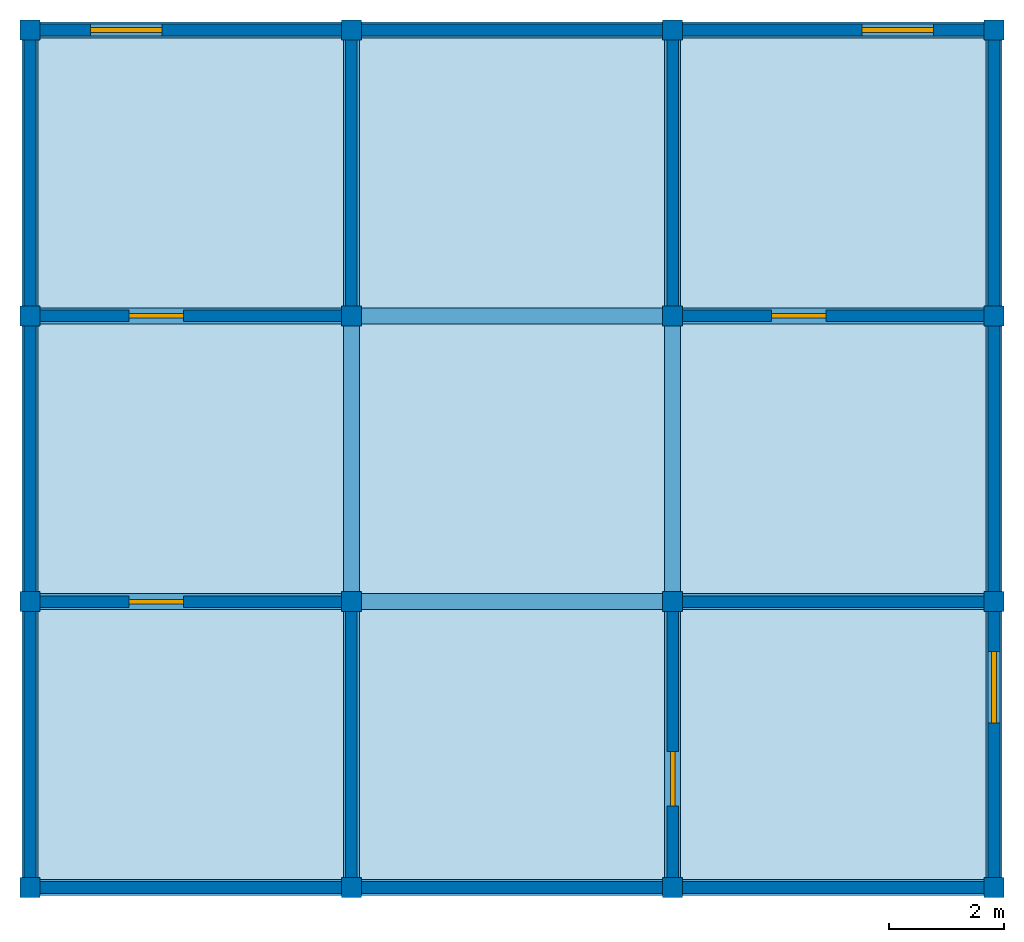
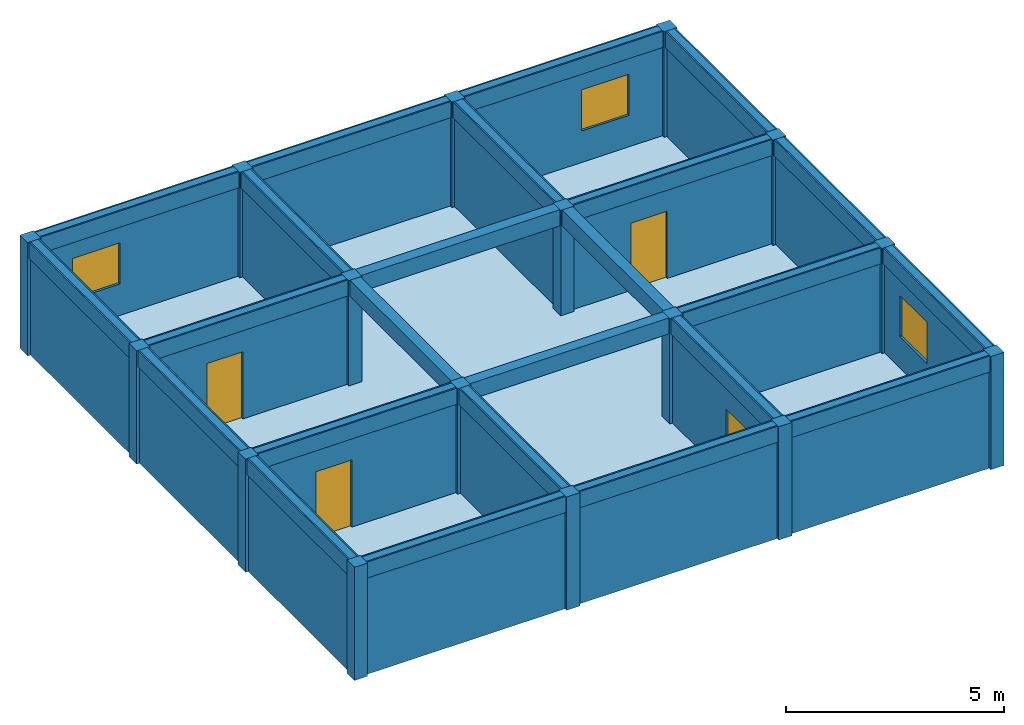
# One storey: 24 beams, 20 walls, 16 columns, 4 doors, 3 windows, 1 slab, 7 openings.
"""IFC4X3 building model written with IfcOpenShell, lengths in metres."""

from ifc_helpers import new_model, si_unit, frame, origin_with_axes, origin_2d, place, context, project, spatial, rectangle, extrude, material, element, fill, save


model = new_model("IFC4X3")

# Units and contexts
model_context = context("Model", 3, precision=1e-05, world=origin_with_axes())
ifc_project = project(units=[si_unit("LENGTHUNIT", "METRE"), si_unit("AREAUNIT", "SQUARE_METRE"), si_unit("VOLUMEUNIT", "CUBIC_METRE")], contexts=[model_context])

# Site, building, storey
site = spatial("IfcSite", under=ifc_project, Name="Puerto Montt Parcel", CompositionType="ELEMENT")
building = spatial("IfcBuilding", under=site, Name="Apex Hub", CompositionType="ELEMENT")
storey = spatial("IfcBuildingStorey", under=building, Name="Level 5", CompositionType="ELEMENT", Elevation=12.67)

# Columns
ifc_material_1 = material(Name="Concrete")
column_1_placement = place(None, frame((-8.415, -7.485, 12.669), z_axis=(0.0, 0.0, 1.0), x_axis=(1.0, 0.0, 0.0)))
element("IfcColumn", 1, at=column_1_placement, inside=storey, material=ifc_material_1, Name="Column 5.1", ObjectType="Structural Column", PredefinedType="COLUMN", context=model_context, shape_type="SweptSolid", body=[
    extrude(rectangle(XDim=0.35, YDim=0.35, at=origin_2d()), origin_with_axes(), (0.0, 0.0, 1.0), 3.167),
])
column_2_placement = place(None, frame((-8.415, -2.495, 12.669), z_axis=(0.0, 0.0, 1.0), x_axis=(1.0, 0.0, 0.0)))
element("IfcColumn", 2, at=column_2_placement, inside=storey, material=ifc_material_1, Name="Column 5.2", ObjectType="Facade Column", PredefinedType="COLUMN", context=model_context, shape_type="SweptSolid", body=[
    extrude(rectangle(XDim=0.35, YDim=0.35, at=origin_2d()), origin_with_axes(), (0.0, 0.0, 1.0), 3.167),
])
column_3_placement = place(None, frame((-8.415, 2.495, 12.669), z_axis=(0.0, 0.0, 1.0), x_axis=(1.0, 0.0, 0.0)))
element("IfcColumn", 3, at=column_3_placement, inside=storey, material=ifc_material_1, Name="Column 5.3", ObjectType="Core Column", PredefinedType="USERDEFINED", context=model_context, shape_type="SweptSolid", body=[
    extrude(rectangle(XDim=0.35, YDim=0.35, at=origin_2d()), origin_with_axes(), (0.0, 0.0, 1.0), 3.167),
])
for number, where, z_axis, x_axis, name in (
    (4, (-8.415, 7.485, 12.669), (0.0, 0.0, 1.0), (1.0, 0.0, 0.0), "Column 5.4"),
    (5, (-2.805, -7.485, 12.669), (0.0, 0.0, 1.0), (1.0, 0.0, 0.0), "Column 5.5"),
):
    element("IfcColumn", number, at=place(None, frame(where, z_axis=z_axis, x_axis=x_axis)), inside=storey, material=ifc_material_1, Name=name, ObjectType="Corner Column", PredefinedType="NOTDEFINED", context=model_context, shape_type="SweptSolid", body=[
        extrude(rectangle(XDim=0.35, YDim=0.35, at=origin_2d()), origin_with_axes(), (0.0, 0.0, 1.0), 3.167),
    ])
column_4_placement = place(None, frame((-2.805, -2.495, 12.669), z_axis=(0.0, 0.0, 1.0), x_axis=(1.0, 0.0, 0.0)))
element("IfcColumn", 6, at=column_4_placement, inside=storey, material=ifc_material_1, Name="Column 5.6", ObjectType="Core Column", PredefinedType="NOTDEFINED", context=model_context, shape_type="SweptSolid", body=[
    extrude(rectangle(XDim=0.35, YDim=0.35, at=origin_2d()), origin_with_axes(), (0.0, 0.0, 1.0), 3.167),
])
for number, where, z_axis, x_axis, name in (
    (7, (-2.805, 2.495, 12.669), (0.0, 0.0, 1.0), (1.0, 0.0, 0.0), "Column 5.7"),
    (8, (-2.805, 7.485, 12.669), (0.0, 0.0, 1.0), (1.0, 0.0, 0.0), "Column 5.8"),
):
    element("IfcColumn", number, at=place(None, frame(where, z_axis=z_axis, x_axis=x_axis)), inside=storey, material=ifc_material_1, Name=name, ObjectType="Core Column", PredefinedType="COLUMN", context=model_context, shape_type="SweptSolid", body=[
        extrude(rectangle(XDim=0.35, YDim=0.35, at=origin_2d()), origin_with_axes(), (0.0, 0.0, 1.0), 3.167),
    ])
column_5_placement = place(None, frame((2.805, -7.485, 12.669), z_axis=(0.0, 0.0, 1.0), x_axis=(1.0, 0.0, 0.0)))
element("IfcColumn", 9, at=column_5_placement, inside=storey, material=ifc_material_1, Name="Column 5.9", ObjectType="Structural Column", PredefinedType="PILASTER", context=model_context, shape_type="SweptSolid", body=[
    extrude(rectangle(XDim=0.35, YDim=0.35, at=origin_2d()), origin_with_axes(), (0.0, 0.0, 1.0), 3.167),
])
column_6_placement = place(None, frame((2.805, -2.495, 12.669), z_axis=(0.0, 0.0, 1.0), x_axis=(1.0, 0.0, 0.0)))
element("IfcColumn", 10, at=column_6_placement, inside=storey, material=ifc_material_1, Name="Column 5.10", ObjectType="Corner Column", PredefinedType="NOTDEFINED", context=model_context, shape_type="SweptSolid", body=[
    extrude(rectangle(XDim=0.35, YDim=0.35, at=origin_2d()), origin_with_axes(), (0.0, 0.0, 1.0), 3.167),
])
column_7_placement = place(None, frame((2.805, 2.495, 12.669), z_axis=(0.0, 0.0, 1.0), x_axis=(1.0, 0.0, 0.0)))
element("IfcColumn", 11, at=column_7_placement, inside=storey, material=ifc_material_1, Name="Column 5.11", ObjectType="Core Column", PredefinedType="COLUMN", context=model_context, shape_type="SweptSolid", body=[
    extrude(rectangle(XDim=0.35, YDim=0.35, at=origin_2d()), origin_with_axes(), (0.0, 0.0, 1.0), 3.167),
])
column_8_placement = place(None, frame((2.805, 7.485, 12.669), z_axis=(0.0, 0.0, 1.0), x_axis=(1.0, 0.0, 0.0)))
element("IfcColumn", 12, at=column_8_placement, inside=storey, material=ifc_material_1, Name="Column 5.12", ObjectType="Core Column", PredefinedType="PILASTER", context=model_context, shape_type="SweptSolid", body=[
    extrude(rectangle(XDim=0.35, YDim=0.35, at=origin_2d()), origin_with_axes(), (0.0, 0.0, 1.0), 3.167),
])
column_9_placement = place(None, frame((8.415, -7.485, 12.669), z_axis=(0.0, 0.0, 1.0), x_axis=(1.0, 0.0, 0.0)))
element("IfcColumn", 13, at=column_9_placement, inside=storey, material=ifc_material_1, Name="Column 5.13", ObjectType="Structural Column", PredefinedType="PILASTER", context=model_context, shape_type="SweptSolid", body=[
    extrude(rectangle(XDim=0.35, YDim=0.35, at=origin_2d()), origin_with_axes(), (0.0, 0.0, 1.0), 3.167),
])
for number, where, z_axis, x_axis, name in (
    (14, (8.415, -2.495, 12.669), (0.0, 0.0, 1.0), (1.0, 0.0, 0.0), "Column 5.14"),
    (15, (8.415, 2.495, 12.669), (0.0, 0.0, 1.0), (1.0, 0.0, 0.0), "Column 5.15"),
):
    element("IfcColumn", number, at=place(None, frame(where, z_axis=z_axis, x_axis=x_axis)), inside=storey, material=ifc_material_1, Name=name, ObjectType="Structural Column", PredefinedType="NOTDEFINED", context=model_context, shape_type="SweptSolid", body=[
        extrude(rectangle(XDim=0.35, YDim=0.35, at=origin_2d()), origin_with_axes(), (0.0, 0.0, 1.0), 3.167),
    ])
column_10_placement = place(None, frame((8.415, 7.485, 12.669), z_axis=(0.0, 0.0, 1.0), x_axis=(1.0, 0.0, 0.0)))
element("IfcColumn", 16, at=column_10_placement, inside=storey, material=ifc_material_1, Name="Column 5.16", ObjectType="Corner Column", PredefinedType="PILASTER", context=model_context, shape_type="SweptSolid", body=[
    extrude(rectangle(XDim=0.35, YDim=0.35, at=origin_2d()), origin_with_axes(), (0.0, 0.0, 1.0), 3.167),
])

# Beams
beam_1_placement = place(None, frame((-5.61, -7.485, 15.386), z_axis=(0.0, 0.0, 1.0), x_axis=(1.0, 0.0, 0.0)))
element("IfcBeam", 17, at=beam_1_placement, inside=storey, material=ifc_material_1, Name="Beam 5.1", ObjectType="Rafter Beam", PredefinedType="LINTEL", context=model_context, shape_type="SweptSolid", body=[
    extrude(rectangle(XDim=5.61, YDim=0.28, at=origin_2d()), origin_with_axes(), (0.0, 0.0, 1.0), 0.45),
])
beam_2_placement = place(None, frame((0.0, -7.485, 15.386), z_axis=(0.0, 0.0, 1.0), x_axis=(1.0, 0.0, 0.0)))
element("IfcBeam", 18, at=beam_2_placement, inside=storey, material=ifc_material_1, Name="Beam 5.2", ObjectType="Ridge Beam", PredefinedType="JOIST", context=model_context, shape_type="SweptSolid", body=[
    extrude(rectangle(XDim=5.61, YDim=0.28, at=origin_2d()), origin_with_axes(), (0.0, 0.0, 1.0), 0.45),
])
beam_3_placement = place(None, frame((5.61, -7.485, 15.386), z_axis=(0.0, 0.0, 1.0), x_axis=(1.0, 0.0, 0.0)))
element("IfcBeam", 19, at=beam_3_placement, inside=storey, material=ifc_material_1, Name="Beam 5.3", ObjectType="Secondary Beam", PredefinedType="T_BEAM", context=model_context, shape_type="SweptSolid", body=[
    extrude(rectangle(XDim=5.61, YDim=0.28, at=origin_2d()), origin_with_axes(), (0.0, 0.0, 1.0), 0.45),
])
beam_4_placement = place(None, frame((-5.61, -2.495, 15.386), z_axis=(0.0, 0.0, 1.0), x_axis=(1.0, 0.0, 0.0)))
element("IfcBeam", 20, at=beam_4_placement, inside=storey, material=ifc_material_1, Name="Beam 5.4", ObjectType="Ridge Beam", PredefinedType="T_BEAM", context=model_context, shape_type="SweptSolid", body=[
    extrude(rectangle(XDim=5.61, YDim=0.28, at=origin_2d()), origin_with_axes(), (0.0, 0.0, 1.0), 0.45),
])
beam_5_placement = place(None, frame((0.0, -2.495, 15.386), z_axis=(0.0, 0.0, 1.0), x_axis=(1.0, 0.0, 0.0)))
element("IfcBeam", 21, at=beam_5_placement, inside=storey, material=ifc_material_1, Name="Beam 5.5", ObjectType="Transfer Beam", PredefinedType="SPANDREL", context=model_context, shape_type="SweptSolid", body=[
    extrude(rectangle(XDim=5.61, YDim=0.28, at=origin_2d()), origin_with_axes(), (0.0, 0.0, 1.0), 0.45),
])
beam_6_placement = place(None, frame((5.61, -2.495, 15.386), z_axis=(0.0, 0.0, 1.0), x_axis=(1.0, 0.0, 0.0)))
element("IfcBeam", 22, at=beam_6_placement, inside=storey, material=ifc_material_1, Name="Beam 5.6", ObjectType="Ridge Beam", PredefinedType="USERDEFINED", context=model_context, shape_type="SweptSolid", body=[
    extrude(rectangle(XDim=5.61, YDim=0.28, at=origin_2d()), origin_with_axes(), (0.0, 0.0, 1.0), 0.45),
])
beam_7_placement = place(None, frame((-5.61, 2.495, 15.386), z_axis=(0.0, 0.0, 1.0), x_axis=(1.0, 0.0, 0.0)))
element("IfcBeam", 23, at=beam_7_placement, inside=storey, material=ifc_material_1, Name="Beam 5.7", ObjectType="Primary Beam", PredefinedType="T_BEAM", context=model_context, shape_type="SweptSolid", body=[
    extrude(rectangle(XDim=5.61, YDim=0.28, at=origin_2d()), origin_with_axes(), (0.0, 0.0, 1.0), 0.45),
])
beam_8_placement = place(None, frame((0.0, 2.495, 15.386), z_axis=(0.0, 0.0, 1.0), x_axis=(1.0, 0.0, 0.0)))
element("IfcBeam", 24, at=beam_8_placement, inside=storey, material=ifc_material_1, Name="Beam 5.8", ObjectType="Secondary Beam", PredefinedType="BEAM", context=model_context, shape_type="SweptSolid", body=[
    extrude(rectangle(XDim=5.61, YDim=0.28, at=origin_2d()), origin_with_axes(), (0.0, 0.0, 1.0), 0.45),
])
beam_9_placement = place(None, frame((5.61, 2.495, 15.386), z_axis=(0.0, 0.0, 1.0), x_axis=(1.0, 0.0, 0.0)))
element("IfcBeam", 25, at=beam_9_placement, inside=storey, material=ifc_material_1, Name="Beam 5.9", ObjectType="Ridge Beam", PredefinedType="NOTDEFINED", context=model_context, shape_type="SweptSolid", body=[
    extrude(rectangle(XDim=5.61, YDim=0.28, at=origin_2d()), origin_with_axes(), (0.0, 0.0, 1.0), 0.45),
])
beam_10_placement = place(None, frame((-5.61, 7.485, 15.386), z_axis=(0.0, 0.0, 1.0), x_axis=(1.0, 0.0, 0.0)))
element("IfcBeam", 26, at=beam_10_placement, inside=storey, material=ifc_material_1, Name="Beam 5.10", ObjectType="Rafter Beam", PredefinedType="LINTEL", context=model_context, shape_type="SweptSolid", body=[
    extrude(rectangle(XDim=5.61, YDim=0.28, at=origin_2d()), origin_with_axes(), (0.0, 0.0, 1.0), 0.45),
])
beam_11_placement = place(None, frame((0.0, 7.485, 15.386), z_axis=(0.0, 0.0, 1.0), x_axis=(1.0, 0.0, 0.0)))
element("IfcBeam", 27, at=beam_11_placement, inside=storey, material=ifc_material_1, Name="Beam 5.11", ObjectType="Ridge Beam", PredefinedType="JOIST", context=model_context, shape_type="SweptSolid", body=[
    extrude(rectangle(XDim=5.61, YDim=0.28, at=origin_2d()), origin_with_axes(), (0.0, 0.0, 1.0), 0.45),
])
beam_12_placement = place(None, frame((5.61, 7.485, 15.386), z_axis=(0.0, 0.0, 1.0), x_axis=(1.0, 0.0, 0.0)))
element("IfcBeam", 28, at=beam_12_placement, inside=storey, material=ifc_material_1, Name="Beam 5.12", ObjectType="Secondary Beam", PredefinedType="T_BEAM", context=model_context, shape_type="SweptSolid", body=[
    extrude(rectangle(XDim=5.61, YDim=0.28, at=origin_2d()), origin_with_axes(), (0.0, 0.0, 1.0), 0.45),
])
beam_13_placement = place(None, frame((-8.415, -4.99, 15.386), z_axis=(0.0, 0.0, 1.0), x_axis=(0.0, 1.0, 0.0)))
element("IfcBeam", 29, at=beam_13_placement, inside=storey, material=ifc_material_1, Name="Beam 5.13", ObjectType="Rafter Beam", PredefinedType="HOLLOWCORE", context=model_context, shape_type="SweptSolid", body=[
    extrude(rectangle(XDim=4.99, YDim=0.28, at=origin_2d()), origin_with_axes(), (0.0, 0.0, 1.0), 0.45),
])
beam_14_placement = place(None, frame((-8.415, 0.0, 15.386), z_axis=(0.0, 0.0, 1.0), x_axis=(0.0, 1.0, 0.0)))
element("IfcBeam", 30, at=beam_14_placement, inside=storey, material=ifc_material_1, Name="Beam 5.14", ObjectType="Ridge Beam", PredefinedType="T_BEAM", context=model_context, shape_type="SweptSolid", body=[
    extrude(rectangle(XDim=4.99, YDim=0.28, at=origin_2d()), origin_with_axes(), (0.0, 0.0, 1.0), 0.45),
])
beam_15_placement = place(None, frame((-8.415, 4.99, 15.386), z_axis=(0.0, 0.0, 1.0), x_axis=(0.0, 1.0, 0.0)))
element("IfcBeam", 31, at=beam_15_placement, inside=storey, material=ifc_material_1, Name="Beam 5.15", ObjectType="Transfer Beam", PredefinedType="T_BEAM", context=model_context, shape_type="SweptSolid", body=[
    extrude(rectangle(XDim=4.99, YDim=0.28, at=origin_2d()), origin_with_axes(), (0.0, 0.0, 1.0), 0.45),
])
beam_16_placement = place(None, frame((-2.805, -4.99, 15.386), z_axis=(0.0, 0.0, 1.0), x_axis=(0.0, 1.0, 0.0)))
element("IfcBeam", 32, at=beam_16_placement, inside=storey, material=ifc_material_1, Name="Beam 5.16", ObjectType="Rafter Beam", PredefinedType="SPANDREL", context=model_context, shape_type="SweptSolid", body=[
    extrude(rectangle(XDim=4.99, YDim=0.28, at=origin_2d()), origin_with_axes(), (0.0, 0.0, 1.0), 0.45),
])
beam_17_placement = place(None, frame((-2.805, 0.0, 15.386), z_axis=(0.0, 0.0, 1.0), x_axis=(0.0, 1.0, 0.0)))
element("IfcBeam", 33, at=beam_17_placement, inside=storey, material=ifc_material_1, Name="Beam 5.17", ObjectType="Transfer Beam", PredefinedType="HOLLOWCORE", context=model_context, shape_type="SweptSolid", body=[
    extrude(rectangle(XDim=4.99, YDim=0.28, at=origin_2d()), origin_with_axes(), (0.0, 0.0, 1.0), 0.45),
])
beam_18_placement = place(None, frame((-2.805, 4.99, 15.386), z_axis=(0.0, 0.0, 1.0), x_axis=(0.0, 1.0, 0.0)))
element("IfcBeam", 34, at=beam_18_placement, inside=storey, material=ifc_material_1, Name="Beam 5.18", ObjectType="Ridge Beam", PredefinedType="BEAM", context=model_context, shape_type="SweptSolid", body=[
    extrude(rectangle(XDim=4.99, YDim=0.28, at=origin_2d()), origin_with_axes(), (0.0, 0.0, 1.0), 0.45),
])
beam_19_placement = place(None, frame((2.805, -4.99, 15.386), z_axis=(0.0, 0.0, 1.0), x_axis=(0.0, 1.0, 0.0)))
element("IfcBeam", 35, at=beam_19_placement, inside=storey, material=ifc_material_1, Name="Beam 5.19", ObjectType="Primary Beam", PredefinedType="JOIST", context=model_context, shape_type="SweptSolid", body=[
    extrude(rectangle(XDim=4.99, YDim=0.28, at=origin_2d()), origin_with_axes(), (0.0, 0.0, 1.0), 0.45),
])
beam_20_placement = place(None, frame((2.805, 0.0, 15.386), z_axis=(0.0, 0.0, 1.0), x_axis=(0.0, 1.0, 0.0)))
element("IfcBeam", 36, at=beam_20_placement, inside=storey, material=ifc_material_1, Name="Beam 5.20", ObjectType="Secondary Beam", PredefinedType="NOTDEFINED", context=model_context, shape_type="SweptSolid", body=[
    extrude(rectangle(XDim=4.99, YDim=0.28, at=origin_2d()), origin_with_axes(), (0.0, 0.0, 1.0), 0.45),
])
beam_21_placement = place(None, frame((2.805, 4.99, 15.386), z_axis=(0.0, 0.0, 1.0), x_axis=(0.0, 1.0, 0.0)))
element("IfcBeam", 37, at=beam_21_placement, inside=storey, material=ifc_material_1, Name="Beam 5.21", ObjectType="Rafter Beam", PredefinedType="USERDEFINED", context=model_context, shape_type="SweptSolid", body=[
    extrude(rectangle(XDim=4.99, YDim=0.28, at=origin_2d()), origin_with_axes(), (0.0, 0.0, 1.0), 0.45),
])
beam_22_placement = place(None, frame((8.415, -4.99, 15.386), z_axis=(0.0, 0.0, 1.0), x_axis=(0.0, 1.0, 0.0)))
element("IfcBeam", 38, at=beam_22_placement, inside=storey, material=ifc_material_1, Name="Beam 5.22", ObjectType="Transfer Beam", PredefinedType="SPANDREL", context=model_context, shape_type="SweptSolid", body=[
    extrude(rectangle(XDim=4.99, YDim=0.28, at=origin_2d()), origin_with_axes(), (0.0, 0.0, 1.0), 0.45),
])
beam_23_placement = place(None, frame((8.415, 0.0, 15.386), z_axis=(0.0, 0.0, 1.0), x_axis=(0.0, 1.0, 0.0)))
element("IfcBeam", 39, at=beam_23_placement, inside=storey, material=ifc_material_1, Name="Beam 5.23", ObjectType="Rafter Beam", PredefinedType="JOIST", context=model_context, shape_type="SweptSolid", body=[
    extrude(rectangle(XDim=4.99, YDim=0.28, at=origin_2d()), origin_with_axes(), (0.0, 0.0, 1.0), 0.45),
])
beam_24_placement = place(None, frame((8.415, 4.99, 15.386), z_axis=(0.0, 0.0, 1.0), x_axis=(0.0, 1.0, 0.0)))
element("IfcBeam", 40, at=beam_24_placement, inside=storey, material=ifc_material_1, Name="Beam 5.24", ObjectType="Rafter Beam", PredefinedType="SPANDREL", context=model_context, shape_type="SweptSolid", body=[
    extrude(rectangle(XDim=4.99, YDim=0.28, at=origin_2d()), origin_with_axes(), (0.0, 0.0, 1.0), 0.45),
])

# Slab
slab_placement = place(None, frame((0.0, 0.0, 12.67), z_axis=(0.0, 0.0, 1.0), x_axis=(1.0, 0.0, 0.0)))
element("IfcSlab", 41, at=slab_placement, inside=storey, material=ifc_material_1, Name="Slab 5", ObjectType="Floor Slab", PredefinedType="FLOOR", context=model_context, shape_type="SweptSolid", body=[
    extrude(rectangle(XDim=16.83, YDim=14.97, at=origin_2d()), origin_with_axes(), (0.0, 0.0, 1.0), 0.22),
])

# Wall, opening, door
wall_1_placement = place(None, frame((-5.61, -2.495, 12.669), z_axis=(0.0, 0.0, 1.0), x_axis=(1.0, 0.0, 0.0)))
wall_1 = element("IfcWall", 42, at=wall_1_placement, inside=storey, material=ifc_material_1, Name="Wall 5.1", ObjectType="Corridor Partition", PredefinedType="MOVABLE", context=model_context, shape_type="SweptSolid", body=[
    extrude(rectangle(XDim=5.61, YDim=0.202838, at=origin_2d()), origin_with_axes(), (0.0, 0.0, 1.0), 3.167),
])
opening_1_placement = place(None, frame((-6.21, -2.495, 12.669), z_axis=(0.0, 0.0, 1.0), x_axis=(1.0, 0.0, 0.0)))
opening_1 = element("IfcOpeningElement", 43, at=opening_1_placement, cuts=wall_1, Name="Door opening 5.1", ObjectType="Door Opening", PredefinedType="OPENING", context=model_context, shape_type="SweptSolid", body=[
    extrude(rectangle(XDim=0.95, YDim=0.282838, at=origin_2d()), origin_with_axes(), (0.0, 0.0, 1.0), 2.1),
])
door_1_placement = place(None, frame((-6.21, -2.495, 12.669), z_axis=(0.0, 0.0, 1.0), x_axis=(1.0, 0.0, 0.0)))
door_1 = element("IfcDoor", 44, at=door_1_placement, inside=storey, Name="Door 5.1", ObjectType="Entry Door", OverallHeight=2.1, OverallWidth=0.95, context=model_context, shape_type="SweptSolid", body=[
    extrude(rectangle(XDim=0.95, YDim=0.08, at=origin_2d()), origin_with_axes(), (0.0, 0.0, 1.0), 2.1),
])
fill(opening_1, door_1)

# Walls
wall_2_placement = place(None, frame((-2.805, -4.99, 12.669), z_axis=(0.0, 0.0, 1.0), x_axis=(0.0, 1.0, 0.0)))
element("IfcWall", 45, at=wall_2_placement, inside=storey, material=ifc_material_1, Name="Wall 5.2", ObjectType="Corridor Partition", PredefinedType="NOTDEFINED", context=model_context, shape_type="SweptSolid", body=[
    extrude(rectangle(XDim=4.99, YDim=0.202838, at=origin_2d()), origin_with_axes(), (0.0, 0.0, 1.0), 3.167),
])
ifc_material_2 = material(Name="Gypsum")
wall_3_placement = place(None, frame((-5.61, -7.485, 12.669), z_axis=(0.0, 0.0, 1.0), x_axis=(1.0, 0.0, 0.0)))
element("IfcWall", 46, at=wall_3_placement, inside=storey, material=ifc_material_2, Name="Wall 5.3", ObjectType="Exterior Wall", PredefinedType="PARAPET", context=model_context, shape_type="SweptSolid", body=[
    extrude(rectangle(XDim=5.61, YDim=0.202838, at=origin_2d()), origin_with_axes(), (0.0, 0.0, 1.0), 3.167),
])
wall_4_placement = place(None, frame((-8.415, -4.99, 12.669), z_axis=(0.0, 0.0, 1.0), x_axis=(0.0, 1.0, 0.0)))
element("IfcWall", 47, at=wall_4_placement, inside=storey, material=ifc_material_2, Name="Wall 5.4", ObjectType="Exterior Wall", PredefinedType="USERDEFINED", context=model_context, shape_type="SweptSolid", body=[
    extrude(rectangle(XDim=4.99, YDim=0.202838, at=origin_2d()), origin_with_axes(), (0.0, 0.0, 1.0), 3.167),
])

# Wall, opening, door
wall_5_placement = place(None, frame((2.805, -4.99, 12.669), z_axis=(0.0, 0.0, 1.0), x_axis=(0.0, 1.0, 0.0)))
wall_5 = element("IfcWall", 48, at=wall_5_placement, inside=storey, material=ifc_material_1, Name="Wall 5.5", ObjectType="Corridor Partition", PredefinedType="SHEAR", context=model_context, shape_type="SweptSolid", body=[
    extrude(rectangle(XDim=4.99, YDim=0.202838, at=origin_2d()), origin_with_axes(), (0.0, 0.0, 1.0), 3.167),
])
opening_2_placement = place(None, frame((2.805, -5.59, 12.669), z_axis=(0.0, 0.0, 1.0), x_axis=(0.0, 1.0, 0.0)))
opening_2 = element("IfcOpeningElement", 49, at=opening_2_placement, cuts=wall_5, Name="Door opening 5.2", ObjectType="Door Opening", PredefinedType="OPENING", context=model_context, shape_type="SweptSolid", body=[
    extrude(rectangle(XDim=0.95, YDim=0.282838, at=origin_2d()), origin_with_axes(), (0.0, 0.0, 1.0), 2.1),
])
door_2_placement = place(None, frame((2.805, -5.59, 12.669), z_axis=(0.0, 0.0, 1.0), x_axis=(0.0, 1.0, 0.0)))
door_2 = element("IfcDoor", 50, at=door_2_placement, inside=storey, Name="Door 5.2", ObjectType="Fire Door", OverallHeight=2.1, OverallWidth=0.95, context=model_context, shape_type="SweptSolid", body=[
    extrude(rectangle(XDim=0.95, YDim=0.08, at=origin_2d()), origin_with_axes(), (0.0, 0.0, 1.0), 2.1),
])
fill(opening_2, door_2)

# Walls
wall_6_placement = place(None, frame((0.0, -7.485, 12.669), z_axis=(0.0, 0.0, 1.0), x_axis=(1.0, 0.0, 0.0)))
element("IfcWall", 51, at=wall_6_placement, inside=storey, material=ifc_material_2, Name="Wall 5.6", ObjectType="Exterior Wall", PredefinedType="USERDEFINED", context=model_context, shape_type="SweptSolid", body=[
    extrude(rectangle(XDim=5.61, YDim=0.202838, at=origin_2d()), origin_with_axes(), (0.0, 0.0, 1.0), 3.167),
])
ifc_material_3 = material(Name="Brick")
wall_7_placement = place(None, frame((5.61, -2.495, 12.669), z_axis=(0.0, 0.0, 1.0), x_axis=(1.0, 0.0, 0.0)))
element("IfcWall", 52, at=wall_7_placement, inside=storey, material=ifc_material_3, Name="Wall 5.7", ObjectType="Corridor Partition", PredefinedType="PARAPET", context=model_context, shape_type="SweptSolid", body=[
    extrude(rectangle(XDim=5.61, YDim=0.202838, at=origin_2d()), origin_with_axes(), (0.0, 0.0, 1.0), 3.167),
])

# Wall, opening, window
wall_8_placement = place(None, frame((8.415, -4.99, 12.669), z_axis=(0.0, 0.0, 1.0), x_axis=(0.0, 1.0, 0.0)))
wall_8 = element("IfcWall", 53, at=wall_8_placement, inside=storey, material=ifc_material_1, Name="Wall 5.8", ObjectType="Exterior Wall", PredefinedType="PLUMBINGWALL", context=model_context, shape_type="SweptSolid", body=[
    extrude(rectangle(XDim=4.99, YDim=0.202838, at=origin_2d()), origin_with_axes(), (0.0, 0.0, 1.0), 3.167),
])
opening_3_placement = place(None, frame((8.415, -3.992, 13.769), z_axis=(0.0, 0.0, 1.0), x_axis=(0.0, 1.0, 0.0)))
opening_3 = element("IfcOpeningElement", 54, at=opening_3_placement, cuts=wall_8, Name="Window opening 5.3", ObjectType="Window Opening", PredefinedType="OPENING", context=model_context, shape_type="SweptSolid", body=[
    extrude(rectangle(XDim=1.25, YDim=0.282838, at=origin_2d()), origin_with_axes(), (0.0, 0.0, 1.0), 1.15),
])
window_1_placement = place(None, frame((8.415, -3.992, 13.769), z_axis=(0.0, 0.0, 1.0), x_axis=(0.0, 1.0, 0.0)))
window_1 = element("IfcWindow", 55, at=window_1_placement, inside=storey, Name="Window 5.3", ObjectType="Louvre Window", OverallHeight=1.15, OverallWidth=1.25, context=model_context, shape_type="SweptSolid", body=[
    extrude(rectangle(XDim=1.25, YDim=0.08, at=origin_2d()), origin_with_axes(), (0.0, 0.0, 1.0), 1.15),
])
fill(opening_3, window_1)

# Wall
wall_9_placement = place(None, frame((5.61, -7.485, 12.669), z_axis=(0.0, 0.0, 1.0), x_axis=(1.0, 0.0, 0.0)))
element("IfcWall", 56, at=wall_9_placement, inside=storey, material=ifc_material_1, Name="Wall 5.9", ObjectType="Exterior Wall", PredefinedType="STANDARD", context=model_context, shape_type="SweptSolid", body=[
    extrude(rectangle(XDim=5.61, YDim=0.202838, at=origin_2d()), origin_with_axes(), (0.0, 0.0, 1.0), 3.167),
])

# Wall, opening, door
wall_10_placement = place(None, frame((-5.61, 2.495, 12.669), z_axis=(0.0, 0.0, 1.0), x_axis=(1.0, 0.0, 0.0)))
wall_10 = element("IfcWall", 57, at=wall_10_placement, inside=storey, material=ifc_material_3, Name="Wall 5.10", ObjectType="Corridor Partition", PredefinedType="SHEAR", context=model_context, shape_type="SweptSolid", body=[
    extrude(rectangle(XDim=5.61, YDim=0.202838, at=origin_2d()), origin_with_axes(), (0.0, 0.0, 1.0), 3.167),
])
opening_4_placement = place(None, frame((-6.21, 2.495, 12.669), z_axis=(0.0, 0.0, 1.0), x_axis=(1.0, 0.0, 0.0)))
opening_4 = element("IfcOpeningElement", 58, at=opening_4_placement, cuts=wall_10, Name="Door opening 5.4", ObjectType="Door Opening", PredefinedType="OPENING", context=model_context, shape_type="SweptSolid", body=[
    extrude(rectangle(XDim=0.95, YDim=0.282838, at=origin_2d()), origin_with_axes(), (0.0, 0.0, 1.0), 2.1),
])
door_3_placement = place(None, frame((-6.21, 2.495, 12.669), z_axis=(0.0, 0.0, 1.0), x_axis=(1.0, 0.0, 0.0)))
door_3 = element("IfcDoor", 59, at=door_3_placement, inside=storey, Name="Door 5.4", ObjectType="Interior Door", OverallHeight=2.1, OverallWidth=0.95, context=model_context, shape_type="SweptSolid", body=[
    extrude(rectangle(XDim=0.95, YDim=0.08, at=origin_2d()), origin_with_axes(), (0.0, 0.0, 1.0), 2.1),
])
fill(opening_4, door_3)

# Wall
wall_11_placement = place(None, frame((-8.415, 0.0, 12.669), z_axis=(0.0, 0.0, 1.0), x_axis=(0.0, 1.0, 0.0)))
element("IfcWall", 60, at=wall_11_placement, inside=storey, material=ifc_material_3, Name="Wall 5.11", ObjectType="Exterior Wall", PredefinedType="STANDARD", context=model_context, shape_type="SweptSolid", body=[
    extrude(rectangle(XDim=4.99, YDim=0.202838, at=origin_2d()), origin_with_axes(), (0.0, 0.0, 1.0), 3.167),
])

# Wall, opening, door
wall_12_placement = place(None, frame((5.61, 2.495, 12.669), z_axis=(0.0, 0.0, 1.0), x_axis=(1.0, 0.0, 0.0)))
wall_12 = element("IfcWall", 61, at=wall_12_placement, inside=storey, material=ifc_material_2, Name="Wall 5.12", ObjectType="Corridor Partition", PredefinedType="PARAPET", context=model_context, shape_type="SweptSolid", body=[
    extrude(rectangle(XDim=5.61, YDim=0.202838, at=origin_2d()), origin_with_axes(), (0.0, 0.0, 1.0), 3.167),
])
opening_5_placement = place(None, frame((5.01, 2.495, 12.669), z_axis=(0.0, 0.0, 1.0), x_axis=(1.0, 0.0, 0.0)))
opening_5 = element("IfcOpeningElement", 62, at=opening_5_placement, cuts=wall_12, Name="Door opening 5.6", ObjectType="Door Opening", PredefinedType="OPENING", context=model_context, shape_type="SweptSolid", body=[
    extrude(rectangle(XDim=0.95, YDim=0.282838, at=origin_2d()), origin_with_axes(), (0.0, 0.0, 1.0), 2.1),
])
door_4_placement = place(None, frame((5.01, 2.495, 12.669), z_axis=(0.0, 0.0, 1.0), x_axis=(1.0, 0.0, 0.0)))
door_4 = element("IfcDoor", 63, at=door_4_placement, inside=storey, Name="Door 5.6", ObjectType="Interior Door", OverallHeight=2.1, OverallWidth=0.95, context=model_context, shape_type="SweptSolid", body=[
    extrude(rectangle(XDim=0.95, YDim=0.08, at=origin_2d()), origin_with_axes(), (0.0, 0.0, 1.0), 2.1),
])
fill(opening_5, door_4)

# Wall
wall_13_placement = place(None, frame((8.415, 0.0, 12.669), z_axis=(0.0, 0.0, 1.0), x_axis=(0.0, 1.0, 0.0)))
element("IfcWall", 64, at=wall_13_placement, inside=storey, material=ifc_material_1, Name="Wall 5.13", ObjectType="Exterior Wall", PredefinedType="PARTITIONING", context=model_context, shape_type="SweptSolid", body=[
    extrude(rectangle(XDim=4.99, YDim=0.202838, at=origin_2d()), origin_with_axes(), (0.0, 0.0, 1.0), 3.167),
])

# Wall, opening, window
wall_14_placement = place(None, frame((-5.61, 7.485, 12.669), z_axis=(0.0, 0.0, 1.0), x_axis=(1.0, 0.0, 0.0)))
wall_14 = element("IfcWall", 65, at=wall_14_placement, inside=storey, material=ifc_material_2, Name="Wall 5.14", ObjectType="Exterior Wall", PredefinedType="STANDARD", context=model_context, shape_type="SweptSolid", body=[
    extrude(rectangle(XDim=5.61, YDim=0.202838, at=origin_2d()), origin_with_axes(), (0.0, 0.0, 1.0), 3.167),
])
opening_6_placement = place(None, frame((-6.732, 7.485, 13.769), z_axis=(0.0, 0.0, 1.0), x_axis=(1.0, 0.0, 0.0)))
opening_6 = element("IfcOpeningElement", 66, at=opening_6_placement, cuts=wall_14, Name="Window opening 5.5", ObjectType="Window Opening", PredefinedType="OPENING", context=model_context, shape_type="SweptSolid", body=[
    extrude(rectangle(XDim=1.25, YDim=0.282838, at=origin_2d()), origin_with_axes(), (0.0, 0.0, 1.0), 1.15),
])
window_2_placement = place(None, frame((-6.732, 7.485, 13.769), z_axis=(0.0, 0.0, 1.0), x_axis=(1.0, 0.0, 0.0)))
window_2 = element("IfcWindow", 67, at=window_2_placement, inside=storey, Name="Window 5.5", ObjectType="Louvre Window", OverallHeight=1.15, OverallWidth=1.25, context=model_context, shape_type="SweptSolid", body=[
    extrude(rectangle(XDim=1.25, YDim=0.08, at=origin_2d()), origin_with_axes(), (0.0, 0.0, 1.0), 1.15),
])
fill(opening_6, window_2)

# Walls
wall_15_placement = place(None, frame((-2.805, 4.99, 12.669), z_axis=(0.0, 0.0, 1.0), x_axis=(0.0, 1.0, 0.0)))
element("IfcWall", 68, at=wall_15_placement, inside=storey, material=ifc_material_2, Name="Wall 5.15", ObjectType="Corridor Partition", PredefinedType="PARAPET", context=model_context, shape_type="SweptSolid", body=[
    extrude(rectangle(XDim=4.99, YDim=0.202838, at=origin_2d()), origin_with_axes(), (0.0, 0.0, 1.0), 3.167),
])
wall_16_placement = place(None, frame((-8.415, 4.99, 12.669), z_axis=(0.0, 0.0, 1.0), x_axis=(0.0, 1.0, 0.0)))
element("IfcWall", 69, at=wall_16_placement, inside=storey, material=ifc_material_1, Name="Wall 5.16", ObjectType="Exterior Wall", PredefinedType="MOVABLE", context=model_context, shape_type="SweptSolid", body=[
    extrude(rectangle(XDim=4.99, YDim=0.202838, at=origin_2d()), origin_with_axes(), (0.0, 0.0, 1.0), 3.167),
])
wall_17_placement = place(None, frame((0.0, 7.485, 12.669), z_axis=(0.0, 0.0, 1.0), x_axis=(1.0, 0.0, 0.0)))
element("IfcWall", 70, at=wall_17_placement, inside=storey, material=ifc_material_3, Name="Wall 5.17", ObjectType="Exterior Wall", PredefinedType="SOLIDWALL", context=model_context, shape_type="SweptSolid", body=[
    extrude(rectangle(XDim=5.61, YDim=0.202838, at=origin_2d()), origin_with_axes(), (0.0, 0.0, 1.0), 3.167),
])
ifc_material_4 = material(Name="CLT")
wall_18_placement = place(None, frame((2.805, 4.99, 12.669), z_axis=(0.0, 0.0, 1.0), x_axis=(0.0, 1.0, 0.0)))
element("IfcWall", 71, at=wall_18_placement, inside=storey, material=ifc_material_4, Name="Wall 5.18", ObjectType="Corridor Partition", PredefinedType="POLYGONAL", context=model_context, shape_type="SweptSolid", body=[
    extrude(rectangle(XDim=4.99, YDim=0.202838, at=origin_2d()), origin_with_axes(), (0.0, 0.0, 1.0), 3.167),
])

# Wall, opening, window
wall_19_placement = place(None, frame((5.61, 7.485, 12.669), z_axis=(0.0, 0.0, 1.0), x_axis=(1.0, 0.0, 0.0)))
wall_19 = element("IfcWall", 72, at=wall_19_placement, inside=storey, material=ifc_material_1, Name="Wall 5.19", ObjectType="Exterior Wall", PredefinedType="PLUMBINGWALL", context=model_context, shape_type="SweptSolid", body=[
    extrude(rectangle(XDim=5.61, YDim=0.202838, at=origin_2d()), origin_with_axes(), (0.0, 0.0, 1.0), 3.167),
])
opening_7_placement = place(None, frame((6.732, 7.485, 13.769), z_axis=(0.0, 0.0, 1.0), x_axis=(1.0, 0.0, 0.0)))
opening_7 = element("IfcOpeningElement", 73, at=opening_7_placement, cuts=wall_19, Name="Window opening 5.7", ObjectType="Window Opening", PredefinedType="OPENING", context=model_context, shape_type="SweptSolid", body=[
    extrude(rectangle(XDim=1.25, YDim=0.282838, at=origin_2d()), origin_with_axes(), (0.0, 0.0, 1.0), 1.15),
])
window_3_placement = place(None, frame((6.732, 7.485, 13.769), z_axis=(0.0, 0.0, 1.0), x_axis=(1.0, 0.0, 0.0)))
window_3 = element("IfcWindow", 74, at=window_3_placement, inside=storey, Name="Window 5.7", ObjectType="Louvre Window", OverallHeight=1.15, OverallWidth=1.25, context=model_context, shape_type="SweptSolid", body=[
    extrude(rectangle(XDim=1.25, YDim=0.08, at=origin_2d()), origin_with_axes(), (0.0, 0.0, 1.0), 1.15),
])
fill(opening_7, window_3)

# Wall
wall_20_placement = place(None, frame((8.415, 4.99, 12.669), z_axis=(0.0, 0.0, 1.0), x_axis=(0.0, 1.0, 0.0)))
element("IfcWall", 75, at=wall_20_placement, inside=storey, material=ifc_material_2, Name="Wall 5.20", ObjectType="Exterior Wall", PredefinedType="PARTITIONING", context=model_context, shape_type="SweptSolid", body=[
    extrude(rectangle(XDim=4.99, YDim=0.202838, at=origin_2d()), origin_with_axes(), (0.0, 0.0, 1.0), 3.167),
])

save(model, "model.ifc")
